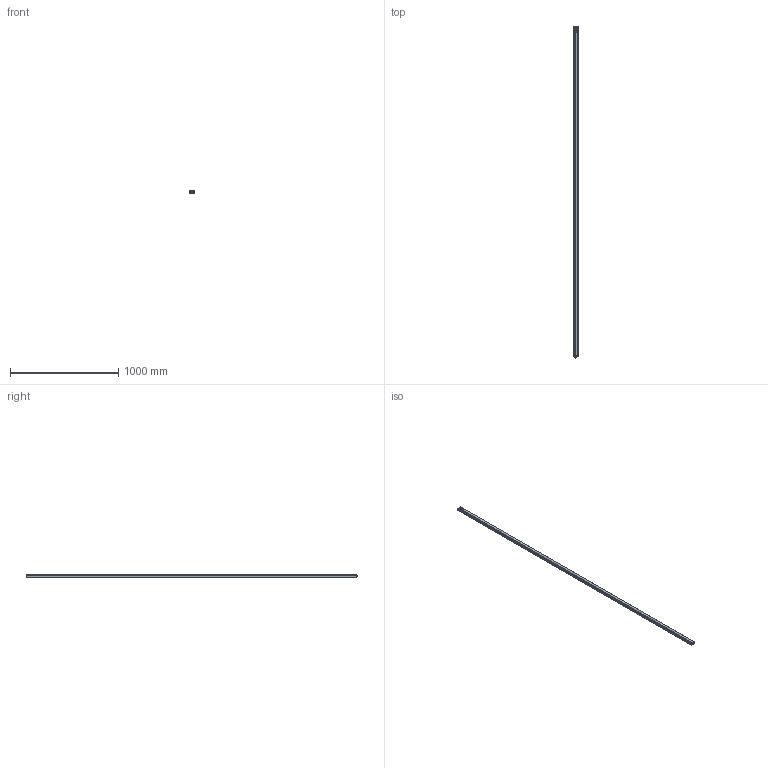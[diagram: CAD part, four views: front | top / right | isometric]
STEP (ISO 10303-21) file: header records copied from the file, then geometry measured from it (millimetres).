
FILE_DESCRIPTION(/* description */ (''),/* implementation_level */ '2;1');
FILE_NAME(/* name */ 'C:\Users\andre\SynologyDrive\Optoscan\Libreria Componenti\00 - Barriere\Barriera sorgente\Argo_3040_TX.stp',/* time_stamp */ '2021-04-23T12:47:06+02:00',/* author */ ('andre'),/* organization */ (''),/* preprocessor_version */ 'ST-DEVELOPER v18',/* originating_system */ 'Autodesk Inventor 2020',/* authorisation */ '');
FILE_SCHEMA (('AUTOMOTIVE_DESIGN { 1 0 10303 214 3 1 1 }'));
Length unit declared in the file: millimetre
Products named in the file (1): Argo_3040_TX
Bounding box: 40.5 x 3073.3 x 20.75 mm (x, y, z)
Volume: 602969.6 mm3; surface area: 797498.2 mm2
Topology: 1 solids, 1 shells, 680 faces, 1867 edges, 1193 vertices
Faces by surface type: plane 317, cylinder 191, bspline 94, torus 64, cone 8, sphere 6
Full cylindrical faces by diameter (mm): 1 x4, 2.5 x4, 3 x4, 3.5 x4, 5.5 x4, 8 x1, 10.5 x2, 11.75 x9, 15.7 x1, 17.5 x1
Entity records: 30188 total; most frequent: CARTESIAN_POINT 12578, ORIENTED_EDGE 3718, DIRECTION 3299, EDGE_CURVE 1859, VERTEX_POINT 1193, AXIS2_PLACEMENT_3D 1137, LINE 1025, VECTOR 1025
